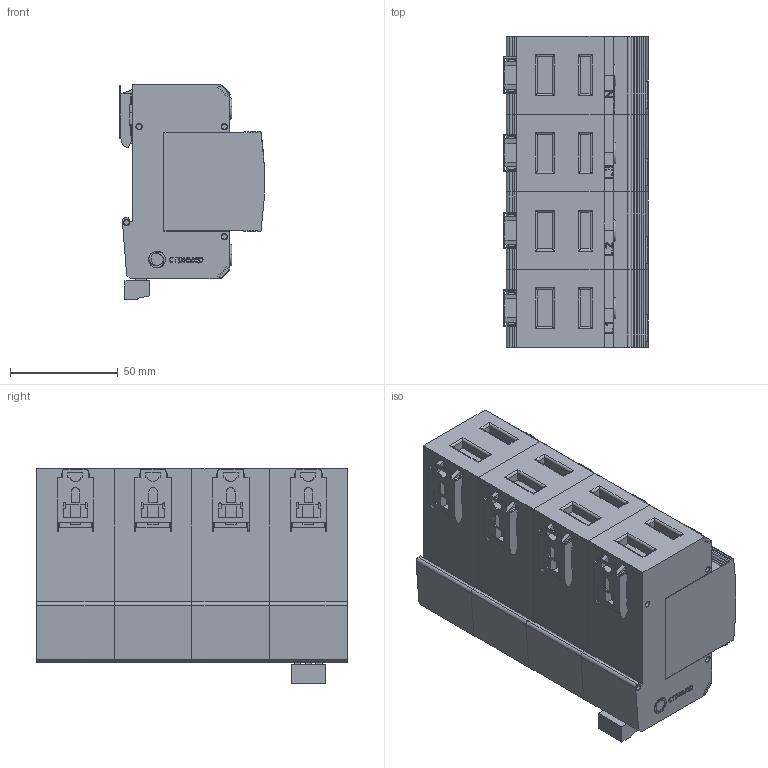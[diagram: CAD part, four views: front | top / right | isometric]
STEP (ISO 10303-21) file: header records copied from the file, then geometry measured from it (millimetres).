
FILE_DESCRIPTION(('TFLEX Exchange Step'),'2;1');
FILE_NAME('X2\041004400442\X0\.114_101.stp', '2022-08-30T14:01:02+03:00',('Ivan Berdigulov'),('Unknown organisation'),'TFLEX Exchange 2019.2','T-FLEX CAD','Unknown authorisation');
FILE_SCHEMA( ('AUTOMOTIVE_DESIGN { 1 0 10303 214 1 1 1 1 }') );
Length unit declared in the file: millimetre
Products named in the file (2): 0
Assembly tree (1 placements, depth 2):
  0
    0
Bounding box: 66.98 x 144.1 x 99.61 mm (x, y, z)
Volume: 692566.5 mm3; surface area: 141214.2 mm2
Topology: 127 solids, 127 shells, 2051 faces, 5209 edges, 3460 vertices
Faces by surface type: plane 1318, cylinder 419, bspline 300, torus 11, cone 3
Full cylindrical faces by diameter (mm): 1.6 x3, 2.5 x48, 3 x51, 4 x3
Entity records: 88676 total; most frequent: CARTESIAN_POINT 40868, ORIENTED_EDGE 10204, DIRECTION 8637, EDGE_CURVE 5102, VERTEX_POINT 3460, VECTOR 3385, LINE 3385, AXIS2_PLACEMENT_3D 2626
